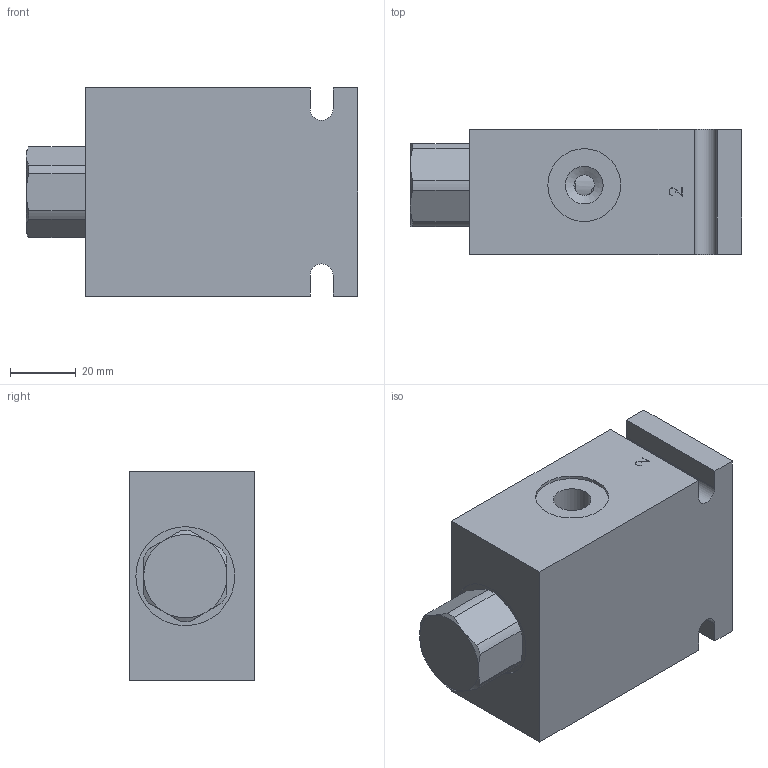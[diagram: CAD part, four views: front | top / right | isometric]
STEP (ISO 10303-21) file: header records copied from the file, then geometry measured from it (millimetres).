
FILE_DESCRIPTION(/* description */ ('Unknown'),/* implementation_level */ '2;1');
FILE_NAME(/* name */ 'HGPDA00_M',/* time_stamp */ '2019-02-20T11:12:08+00:00',/* author */ ('Unknown'),/* organization */ ('Unknown'),/* preprocessor_version */ 'ST-DEVELOPER v16.7',/* originating_system */ 'DEX',/* authorisation */ $);
FILE_SCHEMA (('AUTOMOTIVE_DESIGN {1 0 10303 214 3 1 1}'));
Length unit declared in the file: millimetre
Products named in the file (3): HGPDA00_M; HGPDA00; B-DDGA4
Assembly tree (2 placements, depth 2):
  HGPDA00_M
    HGPDA00
    B-DDGA4
Bounding box: 101.05 x 38.1 x 63.5 mm (x, y, z)
Volume: 192984.1 mm3; surface area: 39366.4 mm2
Topology: 12 solids, 12 shells, 323 faces, 744 edges, 474 vertices
Faces by surface type: plane 151, cylinder 112, cone 51, torus 9
Full cylindrical faces by diameter (mm): 0.2 x4, 1.016 x1, 2.388 x1, 3.175 x24, 6.3 x2, 9.52 x1, 9.53 x1, 11 x1, 11.5 x7, 12.992 x1, 13.043 x2, 14 x1, 14.275 x1, 14.592 x1, 14.63 x2, 15.469 x1, 15.723 x2, 15.735 x2, 15.875 x1, 15.9 x1, 16.167 x1, 16.218 x2, 17.323 x4, 17.501 x1, 18.898 x2, 18.91 x2, 19.075 x1, 19.621 x1, 20.262 x2, 22.22 x4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
Entity records: 9551 total; most frequent: CARTESIAN_POINT 2219, ORIENTED_EDGE 1160, DIRECTION 1147, EDGE_CURVE 580, FACE_BOUND 500, AXIS2_PLACEMENT_3D 500, EDGE_LOOP 495, VERTEX_POINT 438
